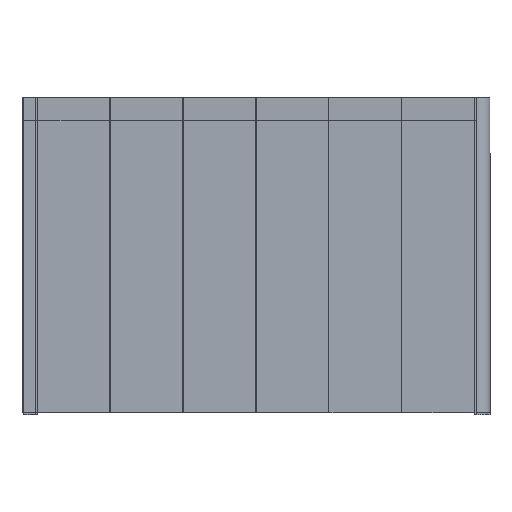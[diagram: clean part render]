
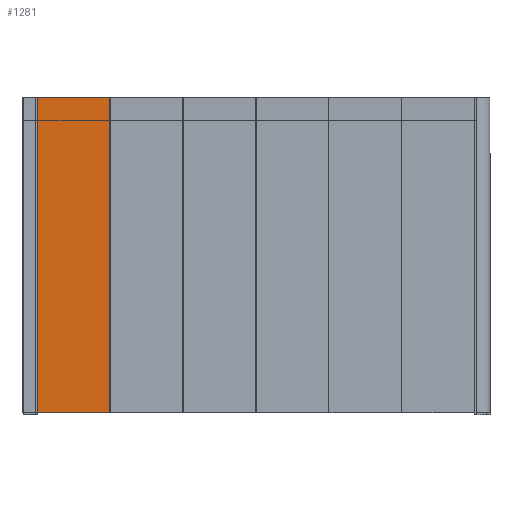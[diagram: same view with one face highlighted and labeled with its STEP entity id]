
A CAD part, left-side view. The second image highlights one B-rep face of the part: STEP entity #1281.
In plain terms, the highlighted planar face has unit normal (-1, 0, 0) as drawn and (1, 0, 0) by its records, which use the part's own axes.
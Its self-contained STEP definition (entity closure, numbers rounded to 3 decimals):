
#1281=ADVANCED_FACE('',(#2345),#15066,.T.);
#2345=FACE_OUTER_BOUND('',#3413,.T.);
#3413=EDGE_LOOP('',(#5721,#5722,#5723,#5724));
#5721=ORIENTED_EDGE('',*,*,#9496,.T.);
#5722=ORIENTED_EDGE('',*,*,#9497,.T.);
#5723=ORIENTED_EDGE('',*,*,#9498,.F.);
#5724=ORIENTED_EDGE('',*,*,#9494,.F.);
#9494=EDGE_CURVE('',#13710,#13711,#11739,.T.);
#9496=EDGE_CURVE('',#13710,#13712,#11741,.T.);
#9497=EDGE_CURVE('',#13712,#13713,#11742,.T.);
#9498=EDGE_CURVE('',#13711,#13713,#11743,.T.);
#11739=B_SPLINE_CURVE_WITH_KNOTS('',1,(#22099,#22100),.UNSPECIFIED.,.F.,
 .F.,(2,2),(0.,2600.),.UNSPECIFIED.);
#11741=B_SPLINE_CURVE_WITH_KNOTS('',1,(#22103,#22104),.UNSPECIFIED.,.F.,
 .F.,(2,2),(608.,1204.),.UNSPECIFIED.);
#11742=B_SPLINE_CURVE_WITH_KNOTS('',1,(#22105,#22106),.UNSPECIFIED.,.F.,
 .F.,(2,2),(0.,2600.),.UNSPECIFIED.);
#11743=B_SPLINE_CURVE_WITH_KNOTS('',1,(#22107,#22108),.UNSPECIFIED.,.F.,
 .F.,(2,2),(608.,1204.),.UNSPECIFIED.);
#13710=VERTEX_POINT('',#22085);
#13711=VERTEX_POINT('',#22086);
#13712=VERTEX_POINT('',#22087);
#13713=VERTEX_POINT('',#22088);
#15066=PLANE('',#17300);
#17300=AXIS2_PLACEMENT_3D('',#22077,#18591,$);
#18591=DIRECTION('',(1.,0.,0.));
#22077=CARTESIAN_POINT('',(-846.,3130.,18.));
#22085=CARTESIAN_POINT('',(-846.,3130.,18.));
#22086=CARTESIAN_POINT('',(-846.,3130.,2618.));
#22087=CARTESIAN_POINT('',(-846.,3726.,18.));
#22088=CARTESIAN_POINT('',(-846.,3726.,2618.));
#22099=CARTESIAN_POINT('',(-846.,3130.,18.));
#22100=CARTESIAN_POINT('',(-846.,3130.,2618.));
#22103=CARTESIAN_POINT('',(-846.,3130.,18.));
#22104=CARTESIAN_POINT('',(-846.,3726.,18.));
#22105=CARTESIAN_POINT('',(-846.,3726.,18.));
#22106=CARTESIAN_POINT('',(-846.,3726.,2618.));
#22107=CARTESIAN_POINT('',(-846.,3130.,2618.));
#22108=CARTESIAN_POINT('',(-846.,3726.,2618.));
